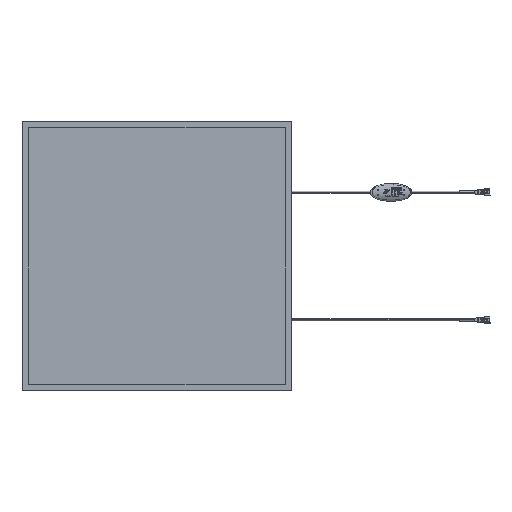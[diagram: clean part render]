
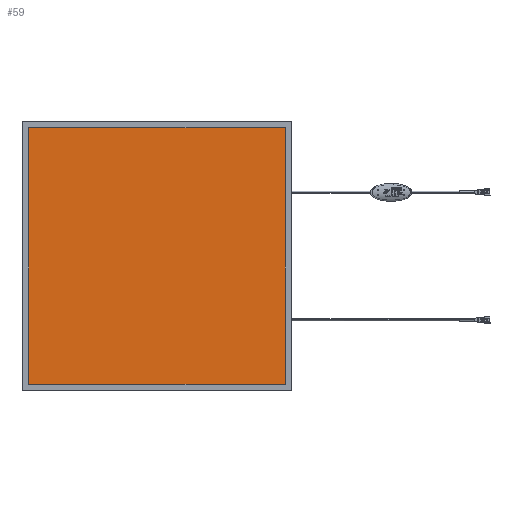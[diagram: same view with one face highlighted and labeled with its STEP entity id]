
A CAD part, top view. The second image highlights one B-rep face of the part: STEP entity #59.
In plain terms, the highlighted planar face has unit normal (0, 0, 1).
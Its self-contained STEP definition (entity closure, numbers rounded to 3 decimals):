
#20=CARTESIAN_POINT('',(566.702,366.702,34.5));
#21=DIRECTION('',(1.,0.,0.));
#22=DIRECTION('',(0.,0.,1.));
#23=AXIS2_PLACEMENT_3D('',#20,#22,#21);
#24=PLANE('',#23);
#25=CARTESIAN_POINT('',(769.702,569.702,34.5));
#26=VERTEX_POINT('',#25);
#27=CARTESIAN_POINT('',(769.702,163.702,34.5));
#28=VERTEX_POINT('',#27);
#29=CARTESIAN_POINT('',(769.702,569.702,34.5));
#30=DIRECTION('',(0.,-1.,0.));
#31=VECTOR('',#30,406.);
#32=LINE('',#29,#31);
#33=EDGE_CURVE('',#26,#28,#32,.T.);
#34=ORIENTED_EDGE('',*,*,#33,.F.);
#35=CARTESIAN_POINT('',(363.702,569.702,34.5));
#36=VERTEX_POINT('',#35);
#37=CARTESIAN_POINT('',(363.702,569.702,34.5));
#38=DIRECTION('',(1.,0.,0.));
#39=VECTOR('',#38,406.);
#40=LINE('',#37,#39);
#41=EDGE_CURVE('',#36,#26,#40,.T.);
#42=ORIENTED_EDGE('',*,*,#41,.F.);
#43=CARTESIAN_POINT('',(363.702,163.702,34.5));
#44=VERTEX_POINT('',#43);
#45=CARTESIAN_POINT('',(363.702,163.702,34.5));
#46=DIRECTION('',(0.,1.,0.));
#47=VECTOR('',#46,406.);
#48=LINE('',#45,#47);
#49=EDGE_CURVE('',#44,#36,#48,.T.);
#50=ORIENTED_EDGE('',*,*,#49,.F.);
#51=CARTESIAN_POINT('',(769.702,163.702,34.5));
#52=DIRECTION('',(-1.,0.,0.));
#53=VECTOR('',#52,406.);
#54=LINE('',#51,#53);
#55=EDGE_CURVE('',#28,#44,#54,.T.);
#56=ORIENTED_EDGE('',*,*,#55,.F.);
#57=EDGE_LOOP('',(#34,#42,#50,#56));
#58=FACE_OUTER_BOUND('',#57,.T.);
#59=ADVANCED_FACE('',(#58),#24,.T.);
